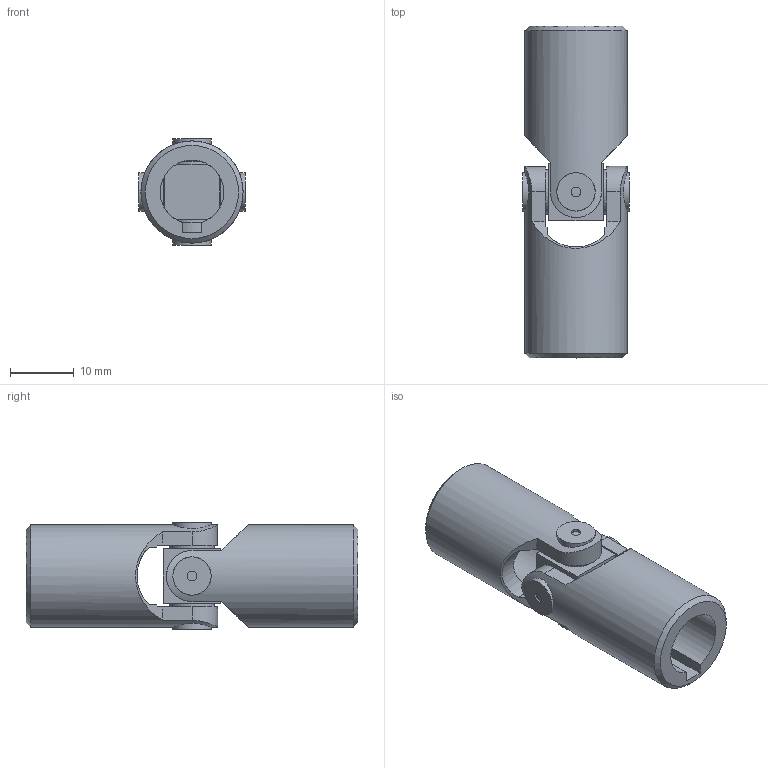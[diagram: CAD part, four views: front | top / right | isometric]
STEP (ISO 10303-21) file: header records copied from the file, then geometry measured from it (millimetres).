
FILE_DESCRIPTION(/* description */ ('EXTENSIBLE TRANSIMISSIONS Series G DIN 808 -2-'),/* implementation_level */ '2;1');
FILE_NAME(/* name */ '\\SRV2016\Societa\Stefano\Disegni 3D\Dis. Clienti\0000Catalogo 3D\01Singoli G-GB\Ø16_!03GB-1C_SGBS101C.stp',/* time_stamp */ '2021-11-10T15:04:24+01:00',/* author */ ('acquisti'),/* organization */ ('MARIOFERRI'),/* preprocessor_version */ 'ST-DEVELOPER v15.6',/* originating_system */ 'Autodesk Inventor 2015',/* authorisation */ '');
FILE_SCHEMA (('AUTOMOTIVE_DESIGN { 1 0 10303 214 3 1 1 }'));
Length unit declared in the file: millimetre
Products named in the file (4): 01-02G SFE; 03GB MOS; 03GB MOC; Assieme4
Assembly tree (3 placements, depth 2):
  Assieme4
    01-02G SFE
    03GB MOS
    03GB MOC
Bounding box: 16.7 x 52 x 16.7 mm (x, y, z)
Volume: 6201 mm3; surface area: 4913.8 mm2
Topology: 3 solids, 3 shells, 77 faces, 199 edges, 136 vertices
Faces by surface type: plane 43, cylinder 20, cone 10, torus 4
Full cylindrical faces by diameter (mm): 1.5 x4, 6 x4, 7 x4, 10 x1, 16 x2
Entity records: 2602 total; most frequent: CARTESIAN_POINT 831, DIRECTION 343, ORIENTED_EDGE 338, EDGE_CURVE 169, AXIS2_PLACEMENT_3D 144, VERTEX_POINT 125, EDGE_LOOP 108, FACE_OUTER_BOUND 77
